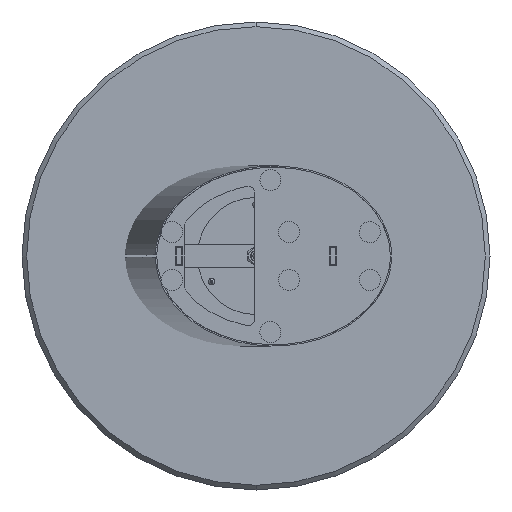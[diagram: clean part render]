
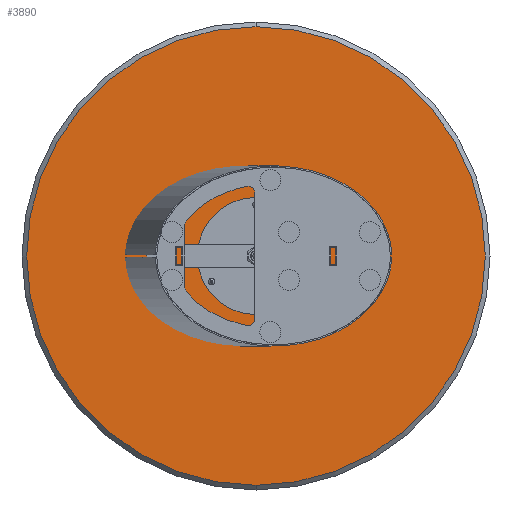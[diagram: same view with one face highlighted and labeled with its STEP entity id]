
A CAD part, front view. The second image highlights one B-rep face of the part: STEP entity #3890.
In plain terms, the highlighted planar face has unit normal (0, -1, 0).
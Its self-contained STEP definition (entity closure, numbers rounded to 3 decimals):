
#71 = CARTESIAN_POINT ( 'NONE',  ( 0., 0., 490. ) ) ;
#78 = AXIS2_PLACEMENT_3D ( 'NONE', #12260, #6711, #3449 ) ;
#214 = EDGE_LOOP ( 'NONE', ( #7066, #7724 ) ) ;
#358 = ORIENTED_EDGE ( 'NONE', *, *, #9092, .F. ) ;
#384 = CARTESIAN_POINT ( 'NONE',  ( 95., 0., -54.848 ) ) ;
#648 = CARTESIAN_POINT ( 'NONE',  ( 0., 0., 0. ) ) ;
#740 = AXIS2_PLACEMENT_3D ( 'NONE', #11109, #12338, #6854 ) ;
#879 = VERTEX_POINT ( 'NONE', #1030 ) ;
#1030 = CARTESIAN_POINT ( 'NONE',  ( 0., 0., 106.297 ) ) ;
#1384 = ORIENTED_EDGE ( 'NONE', *, *, #2758, .F. ) ;
#1546 = EDGE_CURVE ( 'NONE', #8949, #7860, #12367, .T. ) ;
#1610 = VERTEX_POINT ( 'NONE', #71 ) ;
#1830 = DIRECTION ( 'NONE',  ( 0., -1., 0. ) ) ;
#1993 = DIRECTION ( 'NONE',  ( 0., -1., 0. ) ) ;
#2211 = CARTESIAN_POINT ( 'NONE',  ( 95., 0., -51.448 ) ) ;
#2248 = CARTESIAN_POINT ( 'NONE',  ( 0., 0., 3.4 ) ) ;
#2413 = CIRCLE ( 'NONE', #12327, 3.4 ) ;
#2512 = EDGE_CURVE ( 'NONE', #11321, #3267, #5172, .T. ) ;
#2537 = CARTESIAN_POINT ( 'NONE',  ( 0., 0., 0. ) ) ;
#2758 = EDGE_CURVE ( 'NONE', #7582, #13658, #7021, .T. ) ;
#2761 = FACE_BOUND ( 'NONE', #8988, .T. ) ;
#2820 = DIRECTION ( 'NONE',  ( 0., 0., -1. ) ) ;
#2876 = ORIENTED_EDGE ( 'NONE', *, *, #10837, .F. ) ;
#3267 = VERTEX_POINT ( 'NONE', #9720 ) ;
#3411 = EDGE_CURVE ( 'NONE', #3267, #11321, #2413, .T. ) ;
#3449 = DIRECTION ( 'NONE',  ( 0., 0., -1. ) ) ;
#3570 = EDGE_LOOP ( 'NONE', ( #9394, #8758 ) ) ;
#3772 = FACE_BOUND ( 'NONE', #214, .T. ) ;
#3890 = ADVANCED_FACE ( 'NONE', ( #13672, #2761, #3918, #3772, #12435 ), #8316, .T. ) ;
#3918 = FACE_BOUND ( 'NONE', #8003, .T. ) ;
#4205 = CIRCLE ( 'NONE', #5366, 3.4 ) ;
#4339 = CARTESIAN_POINT ( 'NONE',  ( -95., 0., -51.448 ) ) ;
#4351 = CIRCLE ( 'NONE', #6202, 3.4 ) ;
#4459 = CARTESIAN_POINT ( 'NONE',  ( -95., 0., -58.248 ) ) ;
#4959 = DIRECTION ( 'NONE',  ( 0., -1., 0. ) ) ;
#5172 = CIRCLE ( 'NONE', #7712, 3.4 ) ;
#5262 = ORIENTED_EDGE ( 'NONE', *, *, #6551, .F. ) ;
#5366 = AXIS2_PLACEMENT_3D ( 'NONE', #9023, #12617, #13433 ) ;
#5724 = CARTESIAN_POINT ( 'NONE',  ( 0., 0., 0. ) ) ;
#5861 = DIRECTION ( 'NONE',  ( 0., 0., -1. ) ) ;
#6202 = AXIS2_PLACEMENT_3D ( 'NONE', #6461, #1830, #10854 ) ;
#6268 = DIRECTION ( 'NONE',  ( 0., 0., -1. ) ) ;
#6443 = CARTESIAN_POINT ( 'NONE',  ( 0., 0., 113.097 ) ) ;
#6461 = CARTESIAN_POINT ( 'NONE',  ( 0., 0., 109.697 ) ) ;
#6551 = EDGE_CURVE ( 'NONE', #13658, #7582, #13025, .T. ) ;
#6711 = DIRECTION ( 'NONE',  ( 0., -1., 0. ) ) ;
#6854 = DIRECTION ( 'NONE',  ( 0., 0., -1. ) ) ;
#6969 = CIRCLE ( 'NONE', #740, 3.4 ) ;
#7021 = CIRCLE ( 'NONE', #78, 3.4 ) ;
#7066 = ORIENTED_EDGE ( 'NONE', *, *, #3411, .F. ) ;
#7097 = DIRECTION ( 'NONE',  ( 0., -1., 0. ) ) ;
#7445 = DIRECTION ( 'NONE',  ( 0., -1., 0. ) ) ;
#7582 = VERTEX_POINT ( 'NONE', #2211 ) ;
#7712 = AXIS2_PLACEMENT_3D ( 'NONE', #5724, #9035, #5861 ) ;
#7724 = ORIENTED_EDGE ( 'NONE', *, *, #2512, .F. ) ;
#7730 = DIRECTION ( 'NONE',  ( 0., 0., -1. ) ) ;
#7860 = VERTEX_POINT ( 'NONE', #4459 ) ;
#8003 = EDGE_LOOP ( 'NONE', ( #2876, #12741 ) ) ;
#8163 = ORIENTED_EDGE ( 'NONE', *, *, #1546, .F. ) ;
#8176 = DIRECTION ( 'NONE',  ( 0., -1., 0. ) ) ;
#8187 = AXIS2_PLACEMENT_3D ( 'NONE', #2537, #8176, #12590 ) ;
#8316 = PLANE ( 'NONE',  #8187 ) ;
#8672 = DIRECTION ( 'NONE',  ( 0., -1., 0. ) ) ;
#8758 = ORIENTED_EDGE ( 'NONE', *, *, #8824, .T. ) ;
#8824 = EDGE_CURVE ( 'NONE', #8910, #1610, #12738, .T. ) ;
#8910 = VERTEX_POINT ( 'NONE', #9962 ) ;
#8949 = VERTEX_POINT ( 'NONE', #4339 ) ;
#8987 = CARTESIAN_POINT ( 'NONE',  ( 0., 0., 0. ) ) ;
#8988 = EDGE_LOOP ( 'NONE', ( #5262, #1384 ) ) ;
#9006 = EDGE_CURVE ( 'NONE', #1610, #8910, #10659, .T. ) ;
#9023 = CARTESIAN_POINT ( 'NONE',  ( -95., 0., -54.848 ) ) ;
#9035 = DIRECTION ( 'NONE',  ( 0., -1., 0. ) ) ;
#9092 = EDGE_CURVE ( 'NONE', #7860, #8949, #4205, .T. ) ;
#9394 = ORIENTED_EDGE ( 'NONE', *, *, #9006, .T. ) ;
#9509 = AXIS2_PLACEMENT_3D ( 'NONE', #648, #7445, #2820 ) ;
#9687 = VERTEX_POINT ( 'NONE', #6443 ) ;
#9720 = CARTESIAN_POINT ( 'NONE',  ( 0., 0., -3.4 ) ) ;
#9962 = CARTESIAN_POINT ( 'NONE',  ( 0., 0., -490. ) ) ;
#10659 = CIRCLE ( 'NONE', #12268, 490. ) ;
#10837 = EDGE_CURVE ( 'NONE', #879, #9687, #6969, .T. ) ;
#10854 = DIRECTION ( 'NONE',  ( 0., 0., -1. ) ) ;
#11109 = CARTESIAN_POINT ( 'NONE',  ( 0., 0., 109.697 ) ) ;
#11321 = VERTEX_POINT ( 'NONE', #2248 ) ;
#11448 = AXIS2_PLACEMENT_3D ( 'NONE', #11686, #1993, #6268 ) ;
#11627 = AXIS2_PLACEMENT_3D ( 'NONE', #384, #4959, #13693 ) ;
#11686 = CARTESIAN_POINT ( 'NONE',  ( -95., 0., -54.848 ) ) ;
#11736 = CARTESIAN_POINT ( 'NONE',  ( 95., 0., -58.248 ) ) ;
#11828 = EDGE_LOOP ( 'NONE', ( #358, #8163 ) ) ;
#12260 = CARTESIAN_POINT ( 'NONE',  ( 95., 0., -54.848 ) ) ;
#12268 = AXIS2_PLACEMENT_3D ( 'NONE', #13157, #8672, #7730 ) ;
#12327 = AXIS2_PLACEMENT_3D ( 'NONE', #8987, #7097, #13395 ) ;
#12338 = DIRECTION ( 'NONE',  ( 0., -1., 0. ) ) ;
#12367 = CIRCLE ( 'NONE', #11448, 3.4 ) ;
#12435 = FACE_OUTER_BOUND ( 'NONE', #3570, .T. ) ;
#12590 = DIRECTION ( 'NONE',  ( 0., 0., -1. ) ) ;
#12617 = DIRECTION ( 'NONE',  ( 0., -1., 0. ) ) ;
#12738 = CIRCLE ( 'NONE', #9509, 490. ) ;
#12741 = ORIENTED_EDGE ( 'NONE', *, *, #13691, .F. ) ;
#13025 = CIRCLE ( 'NONE', #11627, 3.4 ) ;
#13157 = CARTESIAN_POINT ( 'NONE',  ( 0., 0., 0. ) ) ;
#13395 = DIRECTION ( 'NONE',  ( 0., 0., -1. ) ) ;
#13433 = DIRECTION ( 'NONE',  ( 0., 0., -1. ) ) ;
#13658 = VERTEX_POINT ( 'NONE', #11736 ) ;
#13672 = FACE_BOUND ( 'NONE', #11828, .T. ) ;
#13691 = EDGE_CURVE ( 'NONE', #9687, #879, #4351, .T. ) ;
#13693 = DIRECTION ( 'NONE',  ( 0., 0., -1. ) ) ;
